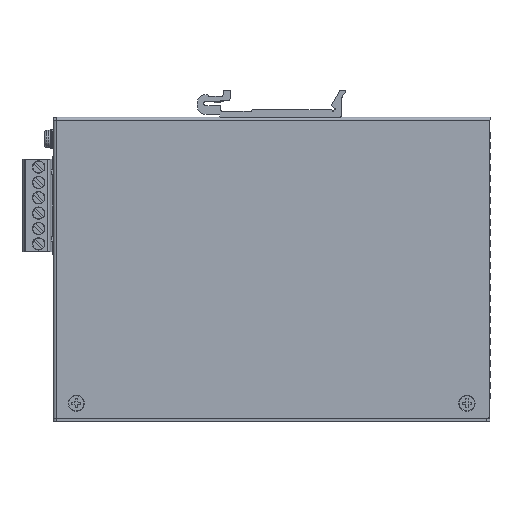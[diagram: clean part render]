
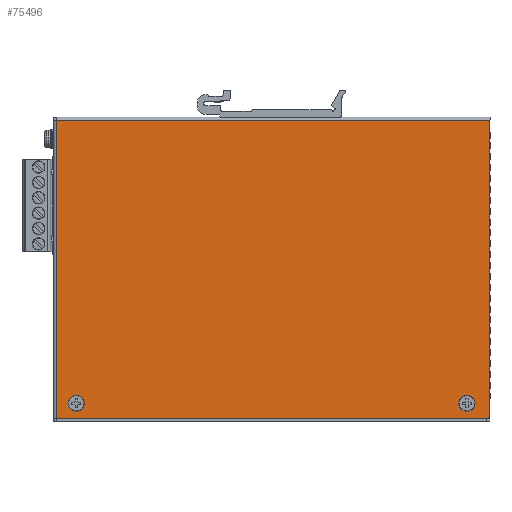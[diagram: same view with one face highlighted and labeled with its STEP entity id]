
A CAD part, top view. The second image highlights one B-rep face of the part: STEP entity #75496.
In plain terms, the highlighted planar face has unit normal (0, 0, 1).
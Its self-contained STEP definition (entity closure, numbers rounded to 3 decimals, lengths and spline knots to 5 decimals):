
#6805=LINE('',#130981,#14359);
#6812=LINE('',#131001,#14366);
#6813=LINE('',#131003,#14367);
#6814=LINE('',#131005,#14368);
#14359=VECTOR('',#103619,1.);
#14366=VECTOR('',#103636,1.);
#14367=VECTOR('',#103639,1.);
#14368=VECTOR('',#103640,1.);
#17474=PLANE('',#84169);
#35592=ORIENTED_EDGE('',*,*,#48259,.T.);
#35593=ORIENTED_EDGE('',*,*,#48260,.T.);
#35594=ORIENTED_EDGE('',*,*,#48261,.T.);
#35595=ORIENTED_EDGE('',*,*,#48249,.T.);
#35596=ORIENTED_EDGE('',*,*,#48254,.F.);
#35597=ORIENTED_EDGE('',*,*,#48262,.F.);
#35598=ORIENTED_EDGE('',*,*,#48245,.F.);
#48245=EDGE_CURVE('',#56754,#56754,#60979,.T.);
#48249=EDGE_CURVE('',#56758,#56757,#6805,.T.);
#48254=EDGE_CURVE('',#56761,#56757,#60982,.T.);
#48259=EDGE_CURVE('',#56761,#56765,#6812,.T.);
#48260=EDGE_CURVE('',#56765,#56766,#6813,.T.);
#48261=EDGE_CURVE('',#56766,#56758,#6814,.T.);
#48262=EDGE_CURVE('',#56767,#56767,#60984,.T.);
#56754=VERTEX_POINT('',#130972);
#56757=VERTEX_POINT('',#130980);
#56758=VERTEX_POINT('',#130982);
#56761=VERTEX_POINT('',#130990);
#56765=VERTEX_POINT('',#131000);
#56766=VERTEX_POINT('',#131004);
#56767=VERTEX_POINT('',#131007);
#60979=CIRCLE('',#84160,0.00265);
#60982=CIRCLE('',#84166,0.001);
#60984=CIRCLE('',#84170,0.00265);
#65251=EDGE_LOOP('',(#35592,#35593,#35594,#35595,#35596));
#65252=EDGE_LOOP('',(#35597));
#65253=EDGE_LOOP('',(#35598));
#69988=FACE_BOUND('',#65251,.T.);
#69989=FACE_BOUND('',#65252,.T.);
#69990=FACE_BOUND('',#65253,.T.);
#75496=ADVANCED_FACE('',(#69988,#69989,#69990),#17474,.T.);
#84160=AXIS2_PLACEMENT_3D('',#130971,#103609,#103610);
#84166=AXIS2_PLACEMENT_3D('',#130991,#103627,#103628);
#84169=AXIS2_PLACEMENT_3D('',#131002,#103637,#103638);
#84170=AXIS2_PLACEMENT_3D('',#131006,#103641,#103642);
#103609=DIRECTION('',(0.,0.,1.));
#103610=DIRECTION('',(0.,-1.,0.));
#103619=DIRECTION('',(1.,0.,0.));
#103627=DIRECTION('',(0.,0.,-1.));
#103628=DIRECTION('',(1.,0.,0.));
#103636=DIRECTION('',(0.,1.,0.));
#103637=DIRECTION('',(0.,0.,1.));
#103638=DIRECTION('',(1.,0.,0.));
#103639=DIRECTION('',(-1.,0.,0.));
#103640=DIRECTION('',(0.,-1.,0.));
#103641=DIRECTION('',(0.,0.,1.));
#103642=DIRECTION('',(0.,-1.,0.));
#130971=CARTESIAN_POINT('',(-0.064,-0.0431,0.03));
#130972=CARTESIAN_POINT('',(-0.064,-0.04575,0.03));
#130980=CARTESIAN_POINT('',(0.0695,-0.0481,0.03));
#130981=CARTESIAN_POINT('',(-0.0705,-0.0481,0.03));
#130982=CARTESIAN_POINT('',(-0.0705,-0.0481,0.03));
#130990=CARTESIAN_POINT('',(0.0705,-0.0471,0.03));
#130991=CARTESIAN_POINT('',(0.0695,-0.0471,0.03));
#131000=CARTESIAN_POINT('',(0.0705,0.0489,0.03));
#131001=CARTESIAN_POINT('',(0.0705,-0.0471,0.03));
#131002=CARTESIAN_POINT('',(0.,0.0009,0.03));
#131003=CARTESIAN_POINT('',(0.0705,0.0489,0.03));
#131004=CARTESIAN_POINT('',(-0.0705,0.0489,0.03));
#131005=CARTESIAN_POINT('',(-0.0705,0.0489,0.03));
#131006=CARTESIAN_POINT('',(0.063,-0.0431,0.03));
#131007=CARTESIAN_POINT('',(0.063,-0.04575,0.03));
